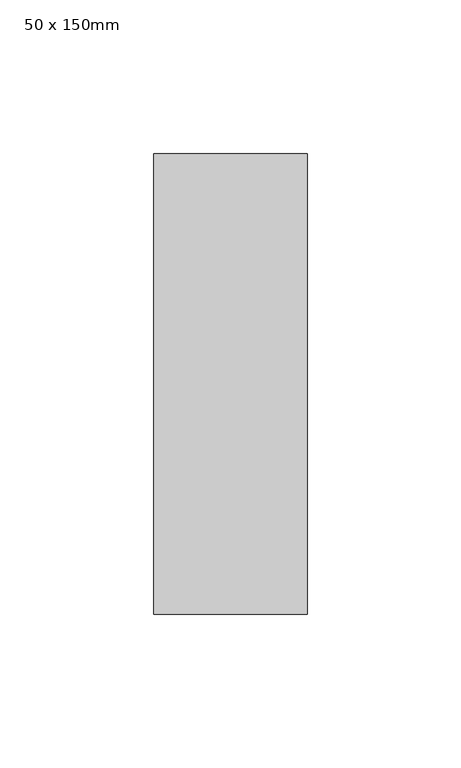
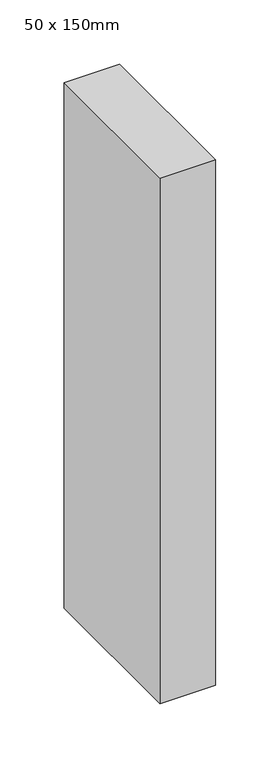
"""IFC4 building model written with IfcOpenShell, lengths in millimetres: member geometry, Прямоугольный импост : 50 x 150mm."""

from ifc_helpers import new_model, si_unit, frame, origin, place, context, project, spatial, polyline, outline, extrude, source, transform, mapped, element, save


def member_50_x_150mm_22f77a7a(model_context):
    return source(origin(), model_context, "Body", "SweptSolid", [
        extrude(outline(polyline([(25.0, 75.0), (25.0, -75.0), (-25.0, -75.0), (-25.0, 75.0), (25.0, 75.0)])), frame((0.0, 0.0, -500.0), z_axis=(0.0, 0.0, 1.0), x_axis=(1.0, 0.0, 0.0)), (0.0, 0.0, 1.0), 500.0),
    ])


if __name__ == "__main__":
    model = new_model("IFC4")
    model_context = context("Model", 3, world=origin())
    ifc_project = project(units=[si_unit("LENGTHUNIT", "METRE", prefix="MILLI")], contexts=[model_context])
    site = spatial("IfcSite", under=ifc_project)
    building = spatial("IfcBuilding", under=site)
    placement = place(None, origin())
    member_50_x_150mm_shape = member_50_x_150mm_22f77a7a(model_context)
    element("IfcMember", 1, ObjectType="Прямоугольный импост : 50 x 150mm", at=placement, inside=building, context=model_context, shape_type="MappedRepresentation", body=[
        mapped(member_50_x_150mm_shape, transform((0.0, 0.0, 0.0), x_axis=(1.0, 0.0, 0.0), y_axis=(0.0, 1.0, 0.0), z_axis=(0.0, 0.0, 1.0))),
    ])
    save(model, "model.ifc")
